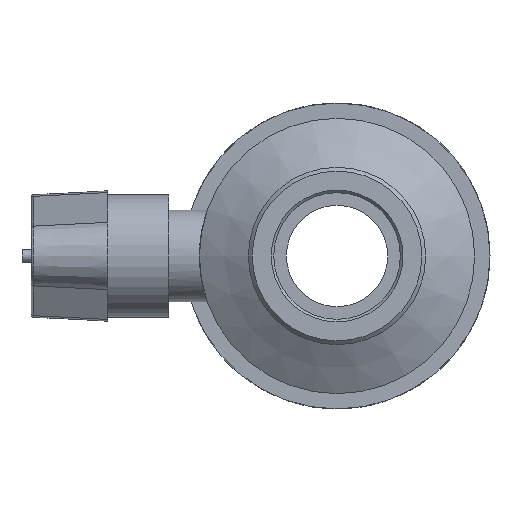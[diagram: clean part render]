
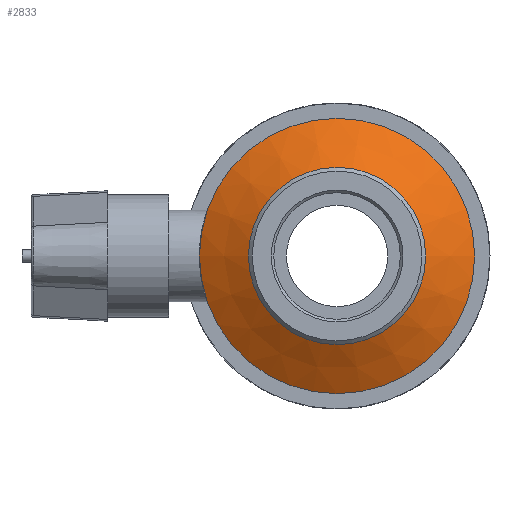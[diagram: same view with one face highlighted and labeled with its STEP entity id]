
A CAD part, left-side view. The second image highlights one B-rep face of the part: STEP entity #2833.
In plain terms, the highlighted conical face has half-angle 60 degrees and reference radius 16.646 mm.
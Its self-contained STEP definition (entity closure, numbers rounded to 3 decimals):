
#32=FACE_BOUND('',#494,.T.);
#149=CONICAL_SURFACE('',#3182,16.646,60.);
#310=FACE_OUTER_BOUND('',#493,.T.);
#493=EDGE_LOOP('',(#2605));
#494=EDGE_LOOP('',(#2606));
#686=CIRCLE('',#3181,13.042);
#687=CIRCLE('',#3183,20.25);
#1359=VERTEX_POINT('',#5590);
#1360=VERTEX_POINT('',#5593);
#1777=EDGE_CURVE('',#1359,#1359,#686,.T.);
#1778=EDGE_CURVE('',#1360,#1360,#687,.T.);
#2605=ORIENTED_EDGE('',*,*,#1778,.F.);
#2606=ORIENTED_EDGE('',*,*,#1777,.T.);
#2833=ADVANCED_FACE('',(#310,#32),#149,.T.);
#3181=AXIS2_PLACEMENT_3D('',#5591,#4038,#4039);
#3182=AXIS2_PLACEMENT_3D('',#5592,#4040,#4041);
#3183=AXIS2_PLACEMENT_3D('',#5594,#4042,#4043);
#4038=DIRECTION('center_axis',(1.,0.,0.));
#4039=DIRECTION('ref_axis',(0.,0.,-1.));
#4040=DIRECTION('center_axis',(1.,0.,0.));
#4041=DIRECTION('ref_axis',(0.,1.,0.));
#4042=DIRECTION('center_axis',(1.,0.,0.));
#4043=DIRECTION('ref_axis',(0.,0.,-1.));
#5590=CARTESIAN_POINT('',(-13.462,13.042,0.));
#5591=CARTESIAN_POINT('Origin',(-13.462,0.,0.));
#5592=CARTESIAN_POINT('Origin',(-11.381,0.,0.));
#5593=CARTESIAN_POINT('',(-9.3,20.25,0.));
#5594=CARTESIAN_POINT('Origin',(-9.3,0.,0.));
